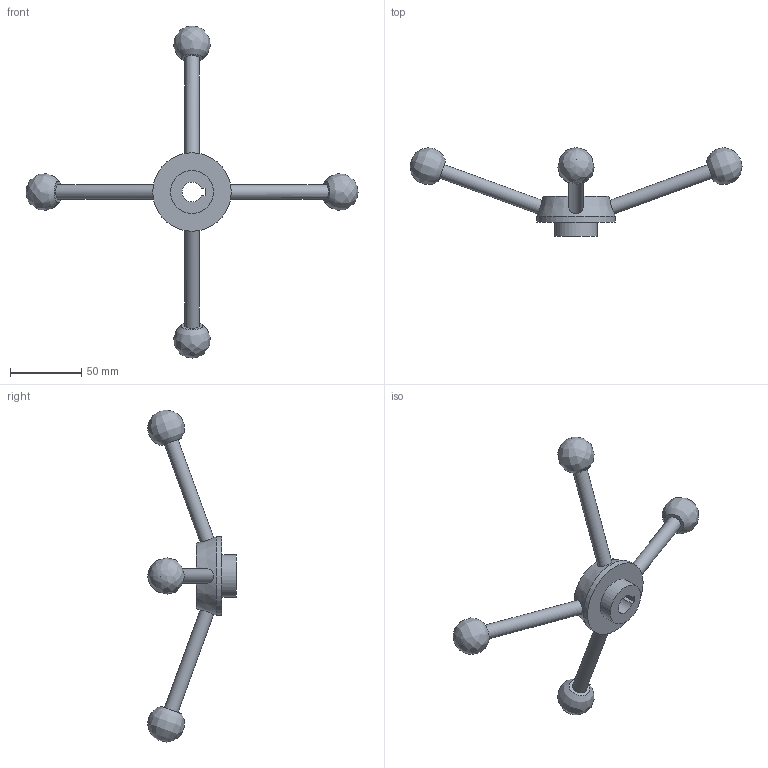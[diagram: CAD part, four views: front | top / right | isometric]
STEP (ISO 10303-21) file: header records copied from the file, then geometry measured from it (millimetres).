
FILE_DESCRIPTION( ( 'STEP AP203' ), '1' );
FILE_NAME( 'C:/Temp/Ganter_Step_05_03_2020/data/2_1/gn_213/gn_213_k/Turret lever GN 213-55-K14.stp', '2020-03-05T11:51:08', ( 'License CC BY-ND 4.0' ), ( 'CADENAS' ), ' ', 'PARTsolutions', ' ' );
FILE_SCHEMA( ( 'CONFIG_CONTROL_DESIGN' ) );
Length unit declared in the file: millimetre
Products named in the file (1): _Turret lever GN 213-55-K14
Bounding box: 232.62 x 62 x 232.62 mm (x, y, z)
Volume: 97779.7 mm3; surface area: 25866 mm2
Topology: 1 solids, 1 shells, 22 faces, 50 edges, 34 vertices
Faces by surface type: plane 10, cylinder 7, bspline 4, cone 1
Full cylindrical faces by diameter (mm): 10 x4, 30 x1, 55 x1
Entity records: 920 total; most frequent: CARTESIAN_POINT 477, DIRECTION 78, ORIENTED_EDGE 58, EDGE_LOOP 40, AXIS2_PLACEMENT_3D 34, VERTEX_POINT 29, EDGE_CURVE 29, FACE_OUTER_BOUND 28
